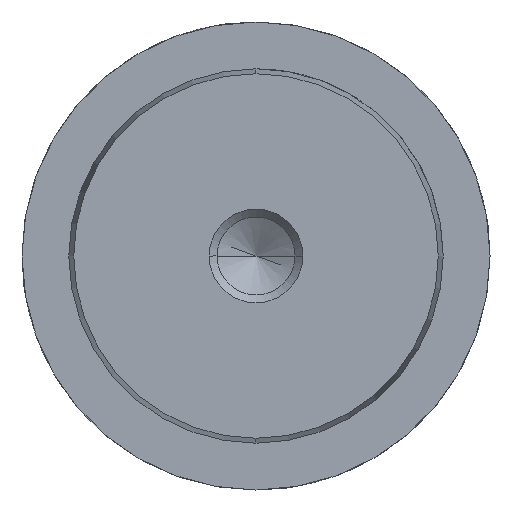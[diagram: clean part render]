
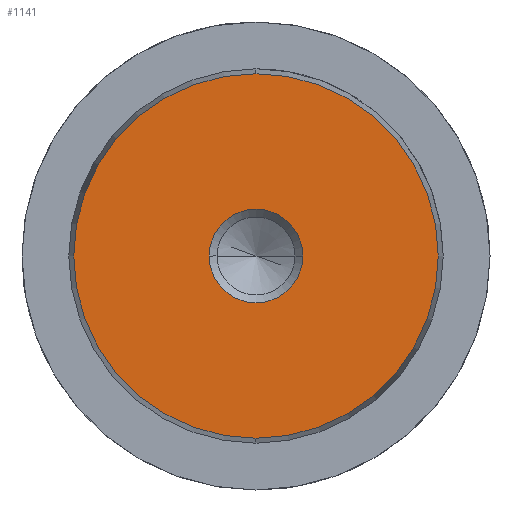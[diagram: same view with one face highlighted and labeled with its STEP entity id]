
A CAD part, left-side view. The second image highlights one B-rep face of the part: STEP entity #1141.
In plain terms, the highlighted planar face has unit normal (-1, 0, 0).
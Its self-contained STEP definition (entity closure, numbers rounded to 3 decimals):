
#1055=CARTESIAN_POINT('Vertex',(0.,0.,-15.578)) ;
#1058=CARTESIAN_POINT('Axis2P3D Location',(0.,0.,0.)) ;
#1062=CARTESIAN_POINT('Vertex',(0.,15.578,0.)) ;
#1065=CARTESIAN_POINT('Axis2P3D Location',(0.,0.,0.)) ;
#1069=CARTESIAN_POINT('Vertex',(0.,0.,15.578)) ;
#1091=CARTESIAN_POINT('Axis2P3D Location',(0.,0.,0.)) ;
#1095=CARTESIAN_POINT('Vertex',(0.,-15.578,0.)) ;
#1098=CARTESIAN_POINT('Axis2P3D Location',(0.,0.,0.)) ;
#1112=CARTESIAN_POINT('Axis2P3D Location',(0.,0.,0.)) ;
#1123=CARTESIAN_POINT('Axis2P3D Location',(0.,0.,0.)) ;
#1127=CARTESIAN_POINT('Vertex',(0.,4.,0.)) ;
#1129=CARTESIAN_POINT('Vertex',(0.,-4.,0.)) ;
#1132=CARTESIAN_POINT('Axis2P3D Location',(0.,0.,0.)) ;
#1059=DIRECTION('Axis2P3D Direction',(1.,-0.,0.)) ;
#1066=DIRECTION('Axis2P3D Direction',(1.,-0.,0.)) ;
#1092=DIRECTION('Axis2P3D Direction',(1.,0.,-0.)) ;
#1099=DIRECTION('Axis2P3D Direction',(1.,0.,-0.)) ;
#1113=DIRECTION('Axis2P3D Direction',(1.,0.,-0.)) ;
#1114=DIRECTION('Axis2P3D XDirection',(-0.,0.,-1.)) ;
#1124=DIRECTION('Axis2P3D Direction',(1.,0.,-0.)) ;
#1133=DIRECTION('Axis2P3D Direction',(1.,0.,-0.)) ;
#1060=AXIS2_PLACEMENT_3D('Circle Axis2P3D',#1058,#1059,$) ;
#1067=AXIS2_PLACEMENT_3D('Circle Axis2P3D',#1065,#1066,$) ;
#1093=AXIS2_PLACEMENT_3D('Circle Axis2P3D',#1091,#1092,$) ;
#1100=AXIS2_PLACEMENT_3D('Circle Axis2P3D',#1098,#1099,$) ;
#1115=AXIS2_PLACEMENT_3D('Plane Axis2P3D',#1112,#1113,#1114) ;
#1125=AXIS2_PLACEMENT_3D('Circle Axis2P3D',#1123,#1124,$) ;
#1134=AXIS2_PLACEMENT_3D('Circle Axis2P3D',#1132,#1133,$) ;
#1118=ORIENTED_EDGE('',*,*,#1064,.F.) ;
#1119=ORIENTED_EDGE('',*,*,#1102,.F.) ;
#1120=ORIENTED_EDGE('',*,*,#1097,.F.) ;
#1121=ORIENTED_EDGE('',*,*,#1071,.F.) ;
#1138=ORIENTED_EDGE('',*,*,#1131,.T.) ;
#1139=ORIENTED_EDGE('',*,*,#1136,.T.) ;
#1140=FACE_BOUND('',#1137,.T.) ;
#1141=ADVANCED_FACE('719-32x160',(#1122,#1140),#1116,.F.) ;
#1061=CIRCLE('generated circle',#1060,15.578) ;
#1068=CIRCLE('generated circle',#1067,15.578) ;
#1094=CIRCLE('generated circle',#1093,15.578) ;
#1101=CIRCLE('generated circle',#1100,15.578) ;
#1126=CIRCLE('generated circle',#1125,4.) ;
#1135=CIRCLE('generated circle',#1134,4.) ;
#1064=EDGE_CURVE('',#1056,#1063,#1061,.T.) ;
#1071=EDGE_CURVE('',#1063,#1070,#1068,.T.) ;
#1097=EDGE_CURVE('',#1070,#1096,#1094,.T.) ;
#1102=EDGE_CURVE('',#1096,#1056,#1101,.T.) ;
#1131=EDGE_CURVE('',#1128,#1130,#1126,.T.) ;
#1136=EDGE_CURVE('',#1130,#1128,#1135,.T.) ;
#1117=EDGE_LOOP('',(#1118,#1119,#1120,#1121)) ;
#1137=EDGE_LOOP('',(#1138,#1139)) ;
#1122=FACE_OUTER_BOUND('',#1117,.T.) ;
#1116=PLANE('Plane',#1115) ;
#1056=VERTEX_POINT('',#1055) ;
#1063=VERTEX_POINT('',#1062) ;
#1070=VERTEX_POINT('',#1069) ;
#1096=VERTEX_POINT('',#1095) ;
#1128=VERTEX_POINT('',#1127) ;
#1130=VERTEX_POINT('',#1129) ;
